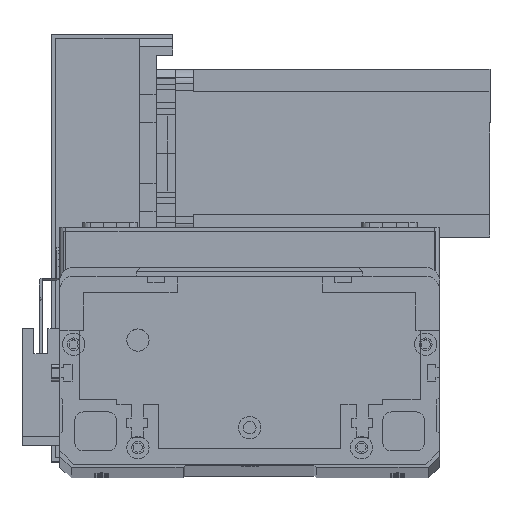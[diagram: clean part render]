
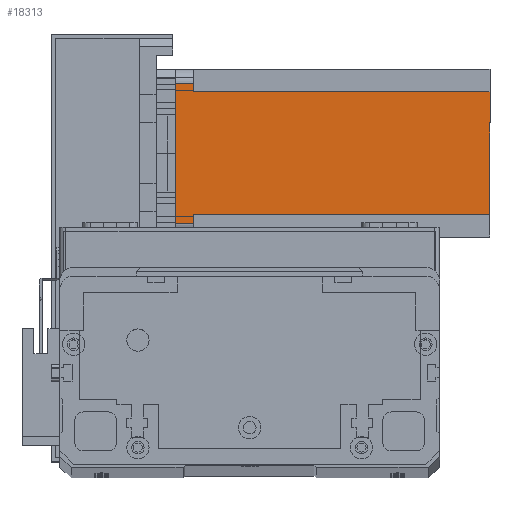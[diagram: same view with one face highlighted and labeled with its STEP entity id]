
A CAD part, top view. The second image highlights one B-rep face of the part: STEP entity #18313.
In plain terms, the highlighted planar face has unit normal (0, 0, 1) as drawn and (0, -1, 0) by its records, which use the part's own axes.
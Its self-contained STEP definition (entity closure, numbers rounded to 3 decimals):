
#321 = CARTESIAN_POINT ( 'NONE',  ( 5., 0., -112.5 ) ) ;
#385 = VERTEX_POINT ( 'NONE', #11764 ) ;
#522 = DIRECTION ( 'NONE',  ( 0., -1., 0. ) ) ;
#980 = EDGE_CURVE ( 'NONE', #30075, #13114, #1900, .T. ) ;
#1900 = LINE ( 'NONE', #18178, #7474 ) ;
#2594 = CARTESIAN_POINT ( 'NONE',  ( 5., 0., -6.5 ) ) ;
#3503 = LINE ( 'NONE', #25907, #10528 ) ;
#4856 = CARTESIAN_POINT ( 'NONE',  ( 8., 0., -6.5 ) ) ;
#5534 = VECTOR ( 'NONE', #19701, 1000. ) ;
#6506 = ORIENTED_EDGE ( 'NONE', *, *, #19110, .T. ) ;
#6731 = CARTESIAN_POINT ( 'NONE',  ( 8., 0., -6.5 ) ) ;
#6787 = VECTOR ( 'NONE', #27617, 1000. ) ;
#7168 = EDGE_CURVE ( 'NONE', #15583, #13114, #11933, .T. ) ;
#7474 = VECTOR ( 'NONE', #17190, 1000. ) ;
#8479 = VECTOR ( 'NONE', #20164, 1000. ) ;
#9029 = LINE ( 'NONE', #321, #26805 ) ;
#9196 = CARTESIAN_POINT ( 'NONE',  ( 8., 0., -112.5 ) ) ;
#9696 = LINE ( 'NONE', #24529, #22073 ) ;
#9963 = CARTESIAN_POINT ( 'NONE',  ( 0., 0., -112.5 ) ) ;
#10528 = VECTOR ( 'NONE', #23597, 1000. ) ;
#11004 = CARTESIAN_POINT ( 'NONE',  ( 5., 0., 0. ) ) ;
#11764 = CARTESIAN_POINT ( 'NONE',  ( 55., 0., -6.5 ) ) ;
#11933 = LINE ( 'NONE', #14396, #29642 ) ;
#12508 = LINE ( 'NONE', #26470, #5534 ) ;
#12634 = EDGE_CURVE ( 'NONE', #25076, #27906, #12998, .T. ) ;
#12848 = ORIENTED_EDGE ( 'NONE', *, *, #13044, .F. ) ;
#12998 = LINE ( 'NONE', #6731, #6787 ) ;
#13044 = EDGE_CURVE ( 'NONE', #30075, #25076, #9696, .T. ) ;
#13114 = VERTEX_POINT ( 'NONE', #24831 ) ;
#14379 = CARTESIAN_POINT ( 'NONE',  ( 52., 0., -6.5 ) ) ;
#14396 = CARTESIAN_POINT ( 'NONE',  ( 52., 0., -112.5 ) ) ;
#14433 = DIRECTION ( 'NONE',  ( 0., 0., -1. ) ) ;
#14614 = DIRECTION ( 'NONE',  ( 0., 0., -1. ) ) ;
#14653 = LINE ( 'NONE', #27034, #8479 ) ;
#15583 = VERTEX_POINT ( 'NONE', #14379 ) ;
#16963 = DIRECTION ( 'NONE',  ( 0., 0., -1. ) ) ;
#17190 = DIRECTION ( 'NONE',  ( 1., 0., 0. ) ) ;
#17523 = AXIS2_PLACEMENT_3D ( 'NONE', #9963, #522, #16963 ) ;
#18178 = CARTESIAN_POINT ( 'NONE',  ( 0., 0., -112.5 ) ) ;
#18313 = ADVANCED_FACE ( 'NONE', ( #29517 ), #19177, .T. ) ;
#18581 = VERTEX_POINT ( 'NONE', #11004 ) ;
#19110 = EDGE_CURVE ( 'NONE', #15583, #385, #14653, .T. ) ;
#19177 = PLANE ( 'NONE',  #17523 ) ;
#19701 = DIRECTION ( 'NONE',  ( 1., 0., 0. ) ) ;
#20164 = DIRECTION ( 'NONE',  ( 1., 0., 0. ) ) ;
#20721 = CARTESIAN_POINT ( 'NONE',  ( 55., 0., 0. ) ) ;
#21206 = ORIENTED_EDGE ( 'NONE', *, *, #980, .T. ) ;
#22073 = VECTOR ( 'NONE', #26808, 1000. ) ;
#22136 = EDGE_CURVE ( 'NONE', #18581, #22488, #12508, .T. ) ;
#22488 = VERTEX_POINT ( 'NONE', #20721 ) ;
#23597 = DIRECTION ( 'NONE',  ( 0., 0., 1. ) ) ;
#23669 = ORIENTED_EDGE ( 'NONE', *, *, #25930, .T. ) ;
#24227 = EDGE_LOOP ( 'NONE', ( #6506, #23669, #29716, #25058, #25494, #12848, #21206, #27346 ) ) ;
#24529 = CARTESIAN_POINT ( 'NONE',  ( 8., 0., -112.5 ) ) ;
#24831 = CARTESIAN_POINT ( 'NONE',  ( 52., 0., -112.5 ) ) ;
#25058 = ORIENTED_EDGE ( 'NONE', *, *, #29071, .T. ) ;
#25076 = VERTEX_POINT ( 'NONE', #4856 ) ;
#25494 = ORIENTED_EDGE ( 'NONE', *, *, #12634, .F. ) ;
#25907 = CARTESIAN_POINT ( 'NONE',  ( 55., 0., -112.5 ) ) ;
#25930 = EDGE_CURVE ( 'NONE', #385, #22488, #3503, .T. ) ;
#26470 = CARTESIAN_POINT ( 'NONE',  ( 0., 0., 0. ) ) ;
#26805 = VECTOR ( 'NONE', #14433, 1000. ) ;
#26808 = DIRECTION ( 'NONE',  ( 0., 0., 1. ) ) ;
#27034 = CARTESIAN_POINT ( 'NONE',  ( 52., 0., -6.5 ) ) ;
#27346 = ORIENTED_EDGE ( 'NONE', *, *, #7168, .F. ) ;
#27617 = DIRECTION ( 'NONE',  ( -1., 0., 0. ) ) ;
#27906 = VERTEX_POINT ( 'NONE', #2594 ) ;
#29071 = EDGE_CURVE ( 'NONE', #18581, #27906, #9029, .T. ) ;
#29517 = FACE_OUTER_BOUND ( 'NONE', #24227, .T. ) ;
#29642 = VECTOR ( 'NONE', #14614, 1000. ) ;
#29716 = ORIENTED_EDGE ( 'NONE', *, *, #22136, .F. ) ;
#30075 = VERTEX_POINT ( 'NONE', #9196 ) ;
